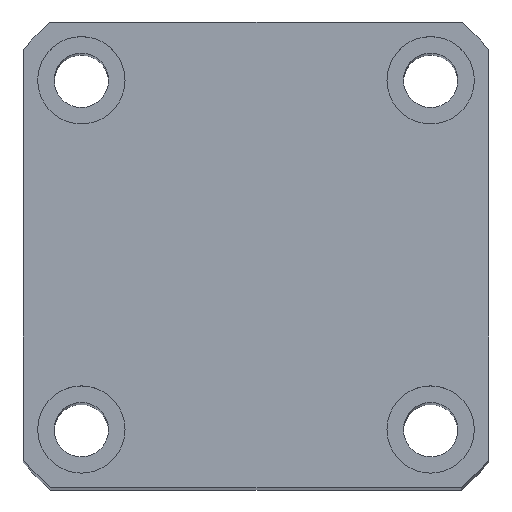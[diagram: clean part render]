
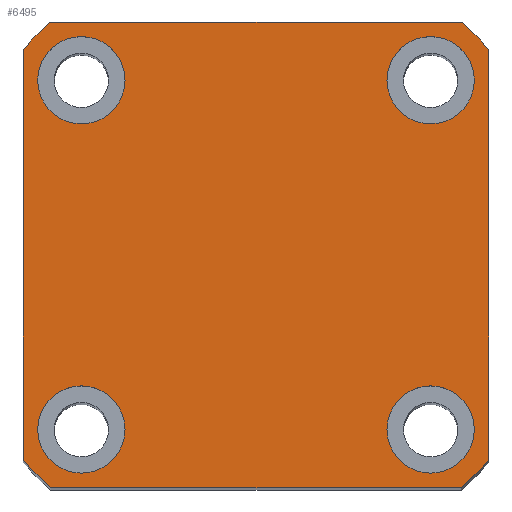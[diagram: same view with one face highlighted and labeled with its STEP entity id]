
A CAD part, top view. The second image highlights one B-rep face of the part: STEP entity #6495.
In plain terms, the highlighted planar face has unit normal (0, 0, 1) as drawn and (1, 0, 0) by its records, which use the part's own axes.
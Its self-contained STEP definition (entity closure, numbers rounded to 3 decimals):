
#76 = CIRCLE ( 'NONE', #2775, 32. ) ;
#93 = CARTESIAN_POINT ( 'NONE',  ( 135., -24., 21.166 ) ) ;
#196 = DIRECTION ( 'NONE',  ( 1., 0., 0. ) ) ;
#217 = EDGE_LOOP ( 'NONE', ( #10082, #1926 ) ) ;
#224 = DIRECTION ( 'NONE',  ( 0., 0., -1. ) ) ;
#239 = DIRECTION ( 'NONE',  ( 0., 0., -1. ) ) ;
#266 = CARTESIAN_POINT ( 'NONE',  ( 135., -18., -18. ) ) ;
#269 = CARTESIAN_POINT ( 'NONE',  ( 135., -18., -13.5 ) ) ;
#282 = CARTESIAN_POINT ( 'NONE',  ( 135., -18., 18. ) ) ;
#311 = VERTEX_POINT ( 'NONE', #5269 ) ;
#328 = ORIENTED_EDGE ( 'NONE', *, *, #1412, .F. ) ;
#380 = CARTESIAN_POINT ( 'NONE',  ( 135., 21.166, 24. ) ) ;
#446 = VECTOR ( 'NONE', #1808, 1000. ) ;
#465 = CIRCLE ( 'NONE', #10016, 4.5 ) ;
#535 = AXIS2_PLACEMENT_3D ( 'NONE', #6877, #1855, #7743 ) ;
#541 = DIRECTION ( 'NONE',  ( 0., 0., -1. ) ) ;
#562 = CIRCLE ( 'NONE', #9129, 4.5 ) ;
#710 = AXIS2_PLACEMENT_3D ( 'NONE', #5163, #196, #6025 ) ;
#788 = EDGE_CURVE ( 'NONE', #6099, #2168, #7303, .T. ) ;
#1062 = EDGE_CURVE ( 'NONE', #5421, #6587, #76, .T. ) ;
#1106 = DIRECTION ( 'NONE',  ( 0., 0., -1. ) ) ;
#1146 = CARTESIAN_POINT ( 'NONE',  ( 135., 0., 0. ) ) ;
#1154 = CARTESIAN_POINT ( 'NONE',  ( 135., 24., -24. ) ) ;
#1162 = DIRECTION ( 'NONE',  ( 1., 0., 0. ) ) ;
#1233 = FACE_OUTER_BOUND ( 'NONE', #6376, .T. ) ;
#1243 = DIRECTION ( 'NONE',  ( 0., -1., 0. ) ) ;
#1260 = CARTESIAN_POINT ( 'NONE',  ( 135., 0., 0. ) ) ;
#1284 = LINE ( 'NONE', #10330, #7969 ) ;
#1292 = LINE ( 'NONE', #4675, #9882 ) ;
#1409 = DIRECTION ( 'NONE',  ( 0., 0., -1. ) ) ;
#1412 = EDGE_CURVE ( 'NONE', #5645, #311, #9132, .T. ) ;
#1428 = DIRECTION ( 'NONE',  ( 1., 0., 0. ) ) ;
#1493 = EDGE_LOOP ( 'NONE', ( #328, #3629 ) ) ;
#1511 = FACE_BOUND ( 'NONE', #1493, .T. ) ;
#1568 = EDGE_CURVE ( 'NONE', #311, #5645, #10197, .T. ) ;
#1806 = CARTESIAN_POINT ( 'NONE',  ( 135., 18., 13.5 ) ) ;
#1808 = DIRECTION ( 'NONE',  ( 0., 0., -1. ) ) ;
#1855 = DIRECTION ( 'NONE',  ( 1., 0., 0. ) ) ;
#1926 = ORIENTED_EDGE ( 'NONE', *, *, #8648, .F. ) ;
#1937 = PLANE ( 'NONE',  #10488 ) ;
#1966 = DIRECTION ( 'NONE',  ( 1., 0., 0. ) ) ;
#2148 = DIRECTION ( 'NONE',  ( 1., 0., 0. ) ) ;
#2150 = DIRECTION ( 'NONE',  ( 1., 0., 0. ) ) ;
#2168 = VERTEX_POINT ( 'NONE', #5562 ) ;
#2173 = LINE ( 'NONE', #1154, #10444 ) ;
#2386 = CARTESIAN_POINT ( 'NONE',  ( 135., 0., 0. ) ) ;
#2488 = DIRECTION ( 'NONE',  ( 1., 0., 0. ) ) ;
#2497 = CARTESIAN_POINT ( 'NONE',  ( 135., 18., -22.5 ) ) ;
#2499 = DIRECTION ( 'NONE',  ( 0., 0., -1. ) ) ;
#2590 = AXIS2_PLACEMENT_3D ( 'NONE', #10476, #5537, #541 ) ;
#2766 = CARTESIAN_POINT ( 'NONE',  ( 135., 18., -13.5 ) ) ;
#2775 = AXIS2_PLACEMENT_3D ( 'NONE', #1260, #1428, #1409 ) ;
#2844 = EDGE_CURVE ( 'NONE', #6046, #3472, #1284, .T. ) ;
#2916 = EDGE_LOOP ( 'NONE', ( #4463, #10518 ) ) ;
#3132 = AXIS2_PLACEMENT_3D ( 'NONE', #282, #1162, #224 ) ;
#3202 = FACE_BOUND ( 'NONE', #217, .T. ) ;
#3212 = ORIENTED_EDGE ( 'NONE', *, *, #5875, .T. ) ;
#3420 = ORIENTED_EDGE ( 'NONE', *, *, #7948, .T. ) ;
#3455 = CARTESIAN_POINT ( 'NONE',  ( 135., 18., 18. ) ) ;
#3472 = VERTEX_POINT ( 'NONE', #3672 ) ;
#3587 = CARTESIAN_POINT ( 'NONE',  ( 135., 18., 22.5 ) ) ;
#3629 = ORIENTED_EDGE ( 'NONE', *, *, #1568, .F. ) ;
#3672 = CARTESIAN_POINT ( 'NONE',  ( 135., -21.166, 24. ) ) ;
#3997 = EDGE_CURVE ( 'NONE', #4898, #7672, #9620, .T. ) ;
#4131 = EDGE_CURVE ( 'NONE', #7672, #4898, #465, .T. ) ;
#4171 = CARTESIAN_POINT ( 'NONE',  ( 135., -18., 13.5 ) ) ;
#4201 = AXIS2_PLACEMENT_3D ( 'NONE', #7204, #2150, #8030 ) ;
#4246 = CIRCLE ( 'NONE', #2590, 32. ) ;
#4279 = EDGE_CURVE ( 'NONE', #2168, #5421, #2173, .T. ) ;
#4298 = DIRECTION ( 'NONE',  ( 0., 0., -1. ) ) ;
#4331 = AXIS2_PLACEMENT_3D ( 'NONE', #266, #6098, #1106 ) ;
#4351 = CARTESIAN_POINT ( 'NONE',  ( 135., -18., -22.5 ) ) ;
#4463 = ORIENTED_EDGE ( 'NONE', *, *, #10151, .F. ) ;
#4675 = CARTESIAN_POINT ( 'NONE',  ( 135., 24., 24. ) ) ;
#4875 = CIRCLE ( 'NONE', #4201, 4.5 ) ;
#4898 = VERTEX_POINT ( 'NONE', #2497 ) ;
#5161 = CARTESIAN_POINT ( 'NONE',  ( 135., 24., 21.166 ) ) ;
#5163 = CARTESIAN_POINT ( 'NONE',  ( 135., 0., 0. ) ) ;
#5192 = DIRECTION ( 'NONE',  ( 1., 0., 0. ) ) ;
#5269 = CARTESIAN_POINT ( 'NONE',  ( 135., -18., 22.5 ) ) ;
#5384 = FACE_BOUND ( 'NONE', #10623, .T. ) ;
#5421 = VERTEX_POINT ( 'NONE', #8156 ) ;
#5537 = DIRECTION ( 'NONE',  ( 1., 0., 0. ) ) ;
#5562 = CARTESIAN_POINT ( 'NONE',  ( 135., -21.166, -24. ) ) ;
#5631 = ORIENTED_EDGE ( 'NONE', *, *, #788, .T. ) ;
#5645 = VERTEX_POINT ( 'NONE', #4171 ) ;
#5783 = EDGE_CURVE ( 'NONE', #9581, #6099, #7429, .T. ) ;
#5875 = EDGE_CURVE ( 'NONE', #10048, #6046, #6883, .T. ) ;
#5903 = VERTEX_POINT ( 'NONE', #4351 ) ;
#5930 = VERTEX_POINT ( 'NONE', #3587 ) ;
#5988 = ORIENTED_EDGE ( 'NONE', *, *, #10280, .T. ) ;
#6025 = DIRECTION ( 'NONE',  ( 0., 0., -1. ) ) ;
#6046 = VERTEX_POINT ( 'NONE', #380 ) ;
#6098 = DIRECTION ( 'NONE',  ( 1., 0., 0. ) ) ;
#6099 = VERTEX_POINT ( 'NONE', #6306 ) ;
#6306 = CARTESIAN_POINT ( 'NONE',  ( 135., -24., -21.166 ) ) ;
#6376 = EDGE_LOOP ( 'NONE', ( #9082, #6762, #5988, #3212, #10179, #3420, #9955, #5631 ) ) ;
#6495 = ADVANCED_FACE ( 'NONE', ( #8721, #1511, #5384, #3202, #1233 ), #1937, .T. ) ;
#6587 = VERTEX_POINT ( 'NONE', #10327 ) ;
#6662 = EDGE_CURVE ( 'NONE', #9685, #5903, #4875, .T. ) ;
#6762 = ORIENTED_EDGE ( 'NONE', *, *, #1062, .T. ) ;
#6877 = CARTESIAN_POINT ( 'NONE',  ( 135., 18., -18. ) ) ;
#6883 = CIRCLE ( 'NONE', #710, 32. ) ;
#7072 = AXIS2_PLACEMENT_3D ( 'NONE', #10152, #10149, #10138 ) ;
#7201 = CARTESIAN_POINT ( 'NONE',  ( 135., 18., 18. ) ) ;
#7204 = CARTESIAN_POINT ( 'NONE',  ( 135., -18., -18. ) ) ;
#7303 = CIRCLE ( 'NONE', #8046, 32. ) ;
#7429 = LINE ( 'NONE', #10115, #446 ) ;
#7600 = CIRCLE ( 'NONE', #10604, 4.5 ) ;
#7672 = VERTEX_POINT ( 'NONE', #2766 ) ;
#7743 = DIRECTION ( 'NONE',  ( 0., 0., -1. ) ) ;
#7852 = DIRECTION ( 'NONE',  ( 0., 0., -1. ) ) ;
#7885 = DIRECTION ( 'NONE',  ( 0., 1., 0. ) ) ;
#7948 = EDGE_CURVE ( 'NONE', #3472, #9581, #4246, .T. ) ;
#7969 = VECTOR ( 'NONE', #1243, 1000. ) ;
#8028 = DIRECTION ( 'NONE',  ( 0., 0., -1. ) ) ;
#8030 = DIRECTION ( 'NONE',  ( 0., 0., -1. ) ) ;
#8046 = AXIS2_PLACEMENT_3D ( 'NONE', #2386, #2488, #2499 ) ;
#8095 = DIRECTION ( 'NONE',  ( 0., 0., 1. ) ) ;
#8156 = CARTESIAN_POINT ( 'NONE',  ( 135., 21.166, -24. ) ) ;
#8648 = EDGE_CURVE ( 'NONE', #5930, #10041, #562, .T. ) ;
#8721 = FACE_BOUND ( 'NONE', #2916, .T. ) ;
#9082 = ORIENTED_EDGE ( 'NONE', *, *, #4279, .T. ) ;
#9129 = AXIS2_PLACEMENT_3D ( 'NONE', #3455, #9321, #4298 ) ;
#9132 = CIRCLE ( 'NONE', #3132, 4.5 ) ;
#9321 = DIRECTION ( 'NONE',  ( 1., 0., 0. ) ) ;
#9457 = ORIENTED_EDGE ( 'NONE', *, *, #3997, .F. ) ;
#9581 = VERTEX_POINT ( 'NONE', #93 ) ;
#9620 = CIRCLE ( 'NONE', #535, 4.5 ) ;
#9685 = VERTEX_POINT ( 'NONE', #269 ) ;
#9824 = ORIENTED_EDGE ( 'NONE', *, *, #4131, .F. ) ;
#9843 = EDGE_CURVE ( 'NONE', #10041, #5930, #7600, .T. ) ;
#9882 = VECTOR ( 'NONE', #8095, 1000. ) ;
#9955 = ORIENTED_EDGE ( 'NONE', *, *, #5783, .T. ) ;
#10016 = AXIS2_PLACEMENT_3D ( 'NONE', #10172, #5192, #239 ) ;
#10041 = VERTEX_POINT ( 'NONE', #1806 ) ;
#10048 = VERTEX_POINT ( 'NONE', #5161 ) ;
#10082 = ORIENTED_EDGE ( 'NONE', *, *, #9843, .F. ) ;
#10115 = CARTESIAN_POINT ( 'NONE',  ( 135., -24., 24. ) ) ;
#10138 = DIRECTION ( 'NONE',  ( 0., 0., -1. ) ) ;
#10149 = DIRECTION ( 'NONE',  ( 1., 0., 0. ) ) ;
#10151 = EDGE_CURVE ( 'NONE', #5903, #9685, #10592, .T. ) ;
#10152 = CARTESIAN_POINT ( 'NONE',  ( 135., -18., 18. ) ) ;
#10172 = CARTESIAN_POINT ( 'NONE',  ( 135., 18., -18. ) ) ;
#10179 = ORIENTED_EDGE ( 'NONE', *, *, #2844, .T. ) ;
#10197 = CIRCLE ( 'NONE', #7072, 4.5 ) ;
#10280 = EDGE_CURVE ( 'NONE', #6587, #10048, #1292, .T. ) ;
#10327 = CARTESIAN_POINT ( 'NONE',  ( 135., 24., -21.166 ) ) ;
#10330 = CARTESIAN_POINT ( 'NONE',  ( 135., 24., 24. ) ) ;
#10444 = VECTOR ( 'NONE', #7885, 1000. ) ;
#10476 = CARTESIAN_POINT ( 'NONE',  ( 135., 0., 0. ) ) ;
#10488 = AXIS2_PLACEMENT_3D ( 'NONE', #1146, #1966, #7852 ) ;
#10518 = ORIENTED_EDGE ( 'NONE', *, *, #6662, .F. ) ;
#10592 = CIRCLE ( 'NONE', #4331, 4.5 ) ;
#10604 = AXIS2_PLACEMENT_3D ( 'NONE', #7201, #2148, #8028 ) ;
#10623 = EDGE_LOOP ( 'NONE', ( #9457, #9824 ) ) ;
